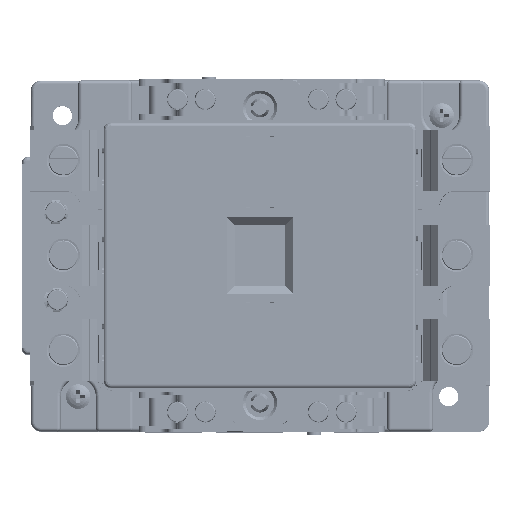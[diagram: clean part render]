
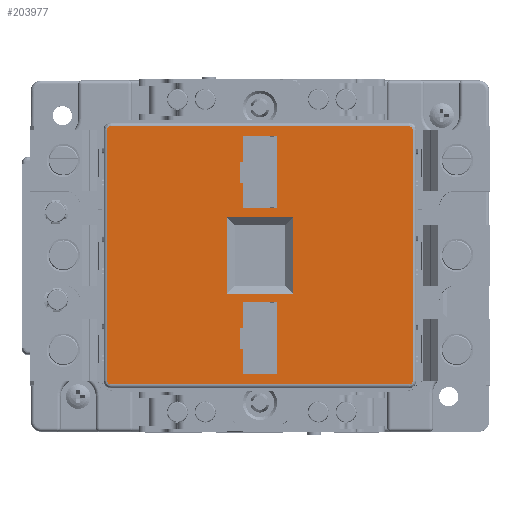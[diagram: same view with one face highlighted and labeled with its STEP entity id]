
A CAD part, top view. The second image highlights one B-rep face of the part: STEP entity #203977.
In plain terms, the highlighted planar face has unit normal (0, 0, 1).
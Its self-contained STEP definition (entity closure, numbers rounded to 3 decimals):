
#57726=DIRECTION('',(0.,-1.,0.));
#57727=VECTOR('',#57726,71.5);
#57728=CARTESIAN_POINT('',(111.25,85.75,139.7));
#57729=LINE('',#57728,#57727);
#57749=DIRECTION('',(-1.,0.,0.));
#57750=VECTOR('',#57749,85.);
#57751=CARTESIAN_POINT('',(110.25,13.25,139.7));
#57752=LINE('',#57751,#57750);
#57776=DIRECTION('',(0.,1.,0.));
#57777=VECTOR('',#57776,71.5);
#57778=CARTESIAN_POINT('',(24.25,14.25,139.7));
#57779=LINE('',#57778,#57777);
#57799=DIRECTION('',(1.,0.,0.));
#57800=VECTOR('',#57799,85.);
#57801=CARTESIAN_POINT('',(25.25,86.75,139.7));
#57802=LINE('',#57801,#57800);
#57803=CARTESIAN_POINT('',(110.25,14.25,139.7));
#57804=DIRECTION('',(0.,0.,1.));
#57805=DIRECTION('',(0.,-1.,0.));
#57806=AXIS2_PLACEMENT_3D('',#57803,#57804,#57805);
#57808=CARTESIAN_POINT('',(25.25,14.25,139.7));
#57809=DIRECTION('',(0.,0.,1.));
#57810=DIRECTION('',(-1.,0.,0.));
#57811=AXIS2_PLACEMENT_3D('',#57808,#57809,#57810);
#57813=CARTESIAN_POINT('',(25.25,85.75,139.7));
#57814=DIRECTION('',(0.,0.,1.));
#57815=DIRECTION('',(0.,1.,0.));
#57816=AXIS2_PLACEMENT_3D('',#57813,#57814,#57815);
#57818=CARTESIAN_POINT('',(110.25,85.75,139.7));
#57819=DIRECTION('',(0.,0.,1.));
#57820=DIRECTION('',(1.,0.,0.));
#57821=AXIS2_PLACEMENT_3D('',#57818,#57819,#57820);
#57823=DIRECTION('',(-1.,0.,0.));
#57824=VECTOR('',#57823,1.);
#57825=CARTESIAN_POINT('',(63.,70.7,139.7));
#57826=LINE('',#57825,#57824);
#57827=DIRECTION('',(-1.,0.,0.));
#57828=VECTOR('',#57827,9.5);
#57829=CARTESIAN_POINT('',(72.5,63.4,139.7));
#57830=LINE('',#57829,#57828);
#57831=DIRECTION('',(0.,-1.,0.));
#57832=VECTOR('',#57831,20.5);
#57833=CARTESIAN_POINT('',(72.5,83.9,139.7));
#57834=LINE('',#57833,#57832);
#57835=DIRECTION('',(-1.,0.,0.));
#57836=VECTOR('',#57835,1.);
#57837=CARTESIAN_POINT('',(63.,23.4,139.7));
#57838=LINE('',#57837,#57836);
#57839=DIRECTION('',(0.,-1.,0.));
#57840=VECTOR('',#57839,20.5);
#57841=CARTESIAN_POINT('',(72.5,36.6,139.7));
#57842=LINE('',#57841,#57840);
#58047=DIRECTION('',(-1.,0.,0.));
#58048=VECTOR('',#58047,9.5);
#58049=CARTESIAN_POINT('',(72.5,83.9,139.7));
#58050=LINE('',#58049,#58048);
#58998=DIRECTION('',(0.,-1.,0.));
#58999=VECTOR('',#58998,7.3);
#59000=CARTESIAN_POINT('',(63.,70.7,139.7));
#59001=LINE('',#59000,#58999);
#59230=DIRECTION('',(-1.,0.,0.));
#59231=VECTOR('',#59230,1.);
#59232=CARTESIAN_POINT('',(63.,76.7,139.7));
#59233=LINE('',#59232,#59231);
#59234=DIRECTION('',(0.,-1.,0.));
#59235=VECTOR('',#59234,7.2);
#59236=CARTESIAN_POINT('',(63.,83.9,139.7));
#59237=LINE('',#59236,#59235);
#59250=DIRECTION('',(0.,-1.,0.));
#59251=VECTOR('',#59250,6.);
#59252=CARTESIAN_POINT('',(62.,76.7,139.7));
#59253=LINE('',#59252,#59251);
#59334=DIRECTION('',(1.,0.,0.));
#59335=VECTOR('',#59334,9.5);
#59336=CARTESIAN_POINT('',(63.,16.1,139.7));
#59337=LINE('',#59336,#59335);
#59430=DIRECTION('',(-1.,0.,0.));
#59431=VECTOR('',#59430,9.5);
#59432=CARTESIAN_POINT('',(72.5,36.6,139.7));
#59433=LINE('',#59432,#59431);
#60417=DIRECTION('',(0.,-1.,0.));
#60418=VECTOR('',#60417,7.3);
#60419=CARTESIAN_POINT('',(63.,23.4,139.7));
#60420=LINE('',#60419,#60418);
#60649=DIRECTION('',(-1.,0.,0.));
#60650=VECTOR('',#60649,1.);
#60651=CARTESIAN_POINT('',(63.,29.4,139.7));
#60652=LINE('',#60651,#60650);
#60653=DIRECTION('',(0.,-1.,0.));
#60654=VECTOR('',#60653,7.2);
#60655=CARTESIAN_POINT('',(63.,36.6,139.7));
#60656=LINE('',#60655,#60654);
#60669=DIRECTION('',(0.,-1.,0.));
#60670=VECTOR('',#60669,6.);
#60671=CARTESIAN_POINT('',(62.,29.4,139.7));
#60672=LINE('',#60671,#60670);
#60681=DIRECTION('',(-1.,0.,0.));
#60682=VECTOR('',#60681,19.);
#60683=CARTESIAN_POINT('',(77.25,61.,139.7));
#60684=LINE('',#60683,#60682);
#60693=DIRECTION('',(0.,-1.,0.));
#60694=VECTOR('',#60693,22.);
#60695=CARTESIAN_POINT('',(58.25,61.,139.7));
#60696=LINE('',#60695,#60694);
#60705=DIRECTION('',(1.,0.,0.));
#60706=VECTOR('',#60705,19.);
#60707=CARTESIAN_POINT('',(58.25,39.,139.7));
#60708=LINE('',#60707,#60706);
#60717=DIRECTION('',(0.,1.,0.));
#60718=VECTOR('',#60717,22.);
#60719=CARTESIAN_POINT('',(77.25,39.,139.7));
#60720=LINE('',#60719,#60718);
#108707=CARTESIAN_POINT('',(63.,63.4,139.7));
#108708=VERTEX_POINT('',#108707);
#108709=CARTESIAN_POINT('',(72.5,63.4,139.7));
#108710=VERTEX_POINT('',#108709);
#108731=CARTESIAN_POINT('',(72.5,36.6,139.7));
#108732=VERTEX_POINT('',#108731);
#108733=CARTESIAN_POINT('',(63.,36.6,139.7));
#108734=VERTEX_POINT('',#108733);
#108743=CARTESIAN_POINT('',(63.,70.7,139.7));
#108744=VERTEX_POINT('',#108743);
#108749=CARTESIAN_POINT('',(63.,23.4,139.7));
#108750=VERTEX_POINT('',#108749);
#108751=CARTESIAN_POINT('',(63.,16.1,139.7));
#108752=VERTEX_POINT('',#108751);
#108787=CARTESIAN_POINT('',(111.25,85.75,139.7));
#108788=CARTESIAN_POINT('',(111.25,14.25,139.7));
#108789=VERTEX_POINT('',#108787);
#108790=VERTEX_POINT('',#108788);
#108791=CARTESIAN_POINT('',(110.25,86.75,139.7));
#108792=VERTEX_POINT('',#108791);
#108793=CARTESIAN_POINT('',(25.25,86.75,139.7));
#108794=VERTEX_POINT('',#108793);
#108795=CARTESIAN_POINT('',(24.25,85.75,139.7));
#108796=VERTEX_POINT('',#108795);
#108797=CARTESIAN_POINT('',(24.25,14.25,139.7));
#108798=VERTEX_POINT('',#108797);
#108799=CARTESIAN_POINT('',(25.25,13.25,139.7));
#108800=VERTEX_POINT('',#108799);
#108801=CARTESIAN_POINT('',(110.25,13.25,139.7));
#108802=VERTEX_POINT('',#108801);
#108803=CARTESIAN_POINT('',(62.,70.7,139.7));
#108804=VERTEX_POINT('',#108803);
#108805=CARTESIAN_POINT('',(62.,76.7,139.7));
#108806=VERTEX_POINT('',#108805);
#108807=CARTESIAN_POINT('',(63.,76.7,139.7));
#108808=VERTEX_POINT('',#108807);
#108809=CARTESIAN_POINT('',(63.,83.9,139.7));
#108810=VERTEX_POINT('',#108809);
#108811=CARTESIAN_POINT('',(72.5,83.9,139.7));
#108812=VERTEX_POINT('',#108811);
#108813=CARTESIAN_POINT('',(62.,23.4,139.7));
#108814=VERTEX_POINT('',#108813);
#108815=CARTESIAN_POINT('',(62.,29.4,139.7));
#108816=VERTEX_POINT('',#108815);
#108817=CARTESIAN_POINT('',(63.,29.4,139.7));
#108818=VERTEX_POINT('',#108817);
#108819=CARTESIAN_POINT('',(72.5,16.1,139.7));
#108820=VERTEX_POINT('',#108819);
#108821=CARTESIAN_POINT('',(77.25,61.,139.7));
#108822=CARTESIAN_POINT('',(58.25,61.,139.7));
#108823=VERTEX_POINT('',#108821);
#108824=VERTEX_POINT('',#108822);
#108825=CARTESIAN_POINT('',(77.25,39.,139.7));
#108826=VERTEX_POINT('',#108825);
#108827=CARTESIAN_POINT('',(58.25,39.,139.7));
#108828=VERTEX_POINT('',#108827);
#203916=CARTESIAN_POINT('',(45.5,50.,139.7));
#203917=DIRECTION('',(0.,0.,1.));
#203918=DIRECTION('',(0.,1.,0.));
#203919=AXIS2_PLACEMENT_3D('',#203916,#203917,#203918);
#203920=PLANE('',#203919);
#203921=ORIENTED_EDGE('',*,*,#203790,.T.);
#203922=ORIENTED_EDGE('',*,*,#203816,.F.);
#203923=ORIENTED_EDGE('',*,*,#203830,.T.);
#203924=ORIENTED_EDGE('',*,*,#203856,.F.);
#203925=ORIENTED_EDGE('',*,*,#203872,.T.);
#203926=ORIENTED_EDGE('',*,*,#203898,.F.);
#203927=ORIENTED_EDGE('',*,*,#203911,.T.);
#203928=ORIENTED_EDGE('',*,*,#203775,.F.);
#203929=EDGE_LOOP('',(#203921,#203922,#203923,#203924,#203925,#203926,#203927,
#203928));
#203930=FACE_OUTER_BOUND('',#203929,.F.);
#203932=ORIENTED_EDGE('',*,*,#203931,.F.);
#203934=ORIENTED_EDGE('',*,*,#203933,.T.);
#203936=ORIENTED_EDGE('',*,*,#203935,.F.);
#203938=ORIENTED_EDGE('',*,*,#203937,.F.);
#203940=ORIENTED_EDGE('',*,*,#203939,.T.);
#203942=ORIENTED_EDGE('',*,*,#203941,.T.);
#203944=ORIENTED_EDGE('',*,*,#203943,.T.);
#203946=ORIENTED_EDGE('',*,*,#203945,.T.);
#203947=EDGE_LOOP('',(#203932,#203934,#203936,#203938,#203940,#203942,#203944,
#203946));
#203948=FACE_BOUND('',#203947,.F.);
#203950=ORIENTED_EDGE('',*,*,#203949,.F.);
#203952=ORIENTED_EDGE('',*,*,#203951,.T.);
#203954=ORIENTED_EDGE('',*,*,#203953,.T.);
#203956=ORIENTED_EDGE('',*,*,#203955,.F.);
#203958=ORIENTED_EDGE('',*,*,#203957,.T.);
#203960=ORIENTED_EDGE('',*,*,#203959,.T.);
#203962=ORIENTED_EDGE('',*,*,#203961,.T.);
#203964=ORIENTED_EDGE('',*,*,#203963,.T.);
#203965=EDGE_LOOP('',(#203950,#203952,#203954,#203956,#203958,#203960,#203962,
#203964));
#203966=FACE_BOUND('',#203965,.F.);
#203968=ORIENTED_EDGE('',*,*,#203967,.T.);
#203970=ORIENTED_EDGE('',*,*,#203969,.T.);
#203972=ORIENTED_EDGE('',*,*,#203971,.T.);
#203974=ORIENTED_EDGE('',*,*,#203973,.T.);
#203975=EDGE_LOOP('',(#203968,#203970,#203972,#203974));
#203976=FACE_BOUND('',#203975,.F.);
#203977=ADVANCED_FACE('',(#203930,#203948,#203966,#203976),#203920,.T.);
#57807=CIRCLE('',#57806,1.);
#57812=CIRCLE('',#57811,1.);
#57817=CIRCLE('',#57816,1.);
#57822=CIRCLE('',#57821,1.);
#203775=EDGE_CURVE('',#108789,#108792,#57822,.T.);
#203790=EDGE_CURVE('',#108789,#108790,#57729,.T.);
#203816=EDGE_CURVE('',#108802,#108790,#57807,.T.);
#203830=EDGE_CURVE('',#108802,#108800,#57752,.T.);
#203856=EDGE_CURVE('',#108798,#108800,#57812,.T.);
#203872=EDGE_CURVE('',#108798,#108796,#57779,.T.);
#203898=EDGE_CURVE('',#108794,#108796,#57817,.T.);
#203911=EDGE_CURVE('',#108794,#108792,#57802,.T.);
#203931=EDGE_CURVE('',#108744,#108804,#57826,.T.);
#203933=EDGE_CURVE('',#108744,#108708,#59001,.T.);
#203935=EDGE_CURVE('',#108710,#108708,#57830,.T.);
#203937=EDGE_CURVE('',#108812,#108710,#57834,.T.);
#203939=EDGE_CURVE('',#108812,#108810,#58050,.T.);
#203941=EDGE_CURVE('',#108810,#108808,#59237,.T.);
#203943=EDGE_CURVE('',#108808,#108806,#59233,.T.);
#203945=EDGE_CURVE('',#108806,#108804,#59253,.T.);
#203949=EDGE_CURVE('',#108750,#108814,#57838,.T.);
#203951=EDGE_CURVE('',#108750,#108752,#60420,.T.);
#203953=EDGE_CURVE('',#108752,#108820,#59337,.T.);
#203955=EDGE_CURVE('',#108732,#108820,#57842,.T.);
#203957=EDGE_CURVE('',#108732,#108734,#59433,.T.);
#203959=EDGE_CURVE('',#108734,#108818,#60656,.T.);
#203961=EDGE_CURVE('',#108818,#108816,#60652,.T.);
#203963=EDGE_CURVE('',#108816,#108814,#60672,.T.);
#203967=EDGE_CURVE('',#108823,#108824,#60684,.T.);
#203969=EDGE_CURVE('',#108824,#108828,#60696,.T.);
#203971=EDGE_CURVE('',#108828,#108826,#60708,.T.);
#203973=EDGE_CURVE('',#108826,#108823,#60720,.T.);
